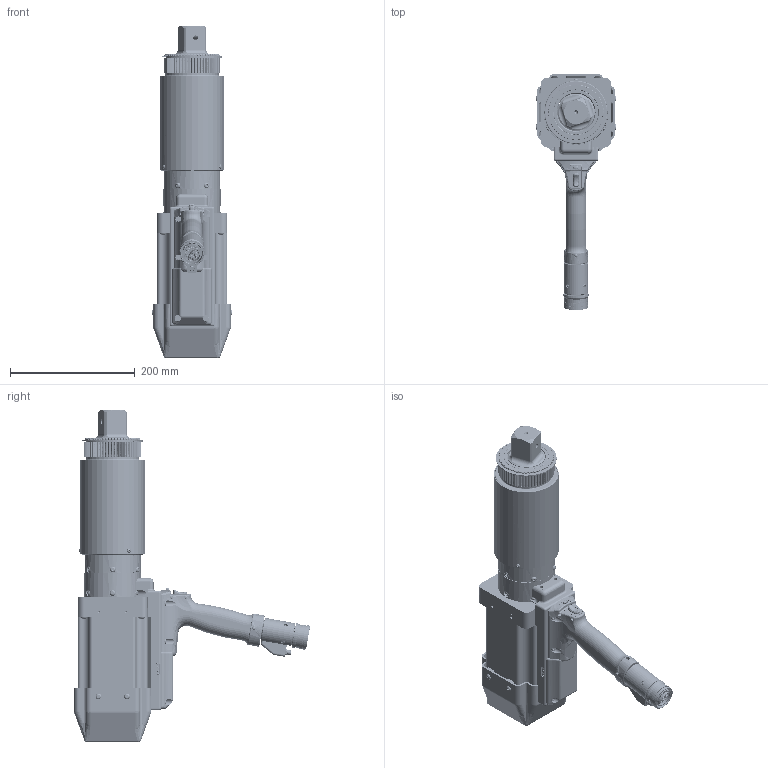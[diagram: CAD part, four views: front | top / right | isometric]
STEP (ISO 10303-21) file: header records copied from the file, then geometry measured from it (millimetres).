
FILE_DESCRIPTION (( 'STEP AP214' ), '1' );
FILE_NAME ('AEP4B998100B.STEP', '2021-04-13T17:51:31', ( '' ), ( '' ), 'SwSTEP 2.0', 'SolidWorks 2020', '' );
FILE_SCHEMA (( 'AUTOMOTIVE_DESIGN' ));
Length unit declared in the file: inch
Products named in the file (1): AEP4B998100B
Bounding box: 128.96 x 377.97 x 531.63 mm (x, y, z)
Volume: 1621796.3 mm3; surface area: 732855 mm2
Topology: 128 solids, 128 shells, 6621 faces, 16691 edges, 10642 vertices
Faces by surface type: plane 2625, cylinder 1975, bspline 914, cone 627, torus 422, sphere 58
Entity records: 395089 total; most frequent: CARTESIAN_POINT 154647, ORIENTED_EDGE 33142, DIRECTION 29457, EDGE_CURVE 16571, VERTEX_POINT 10642, AXIS2_PLACEMENT_3D 10557, VECTOR 8343, LINE 8343
